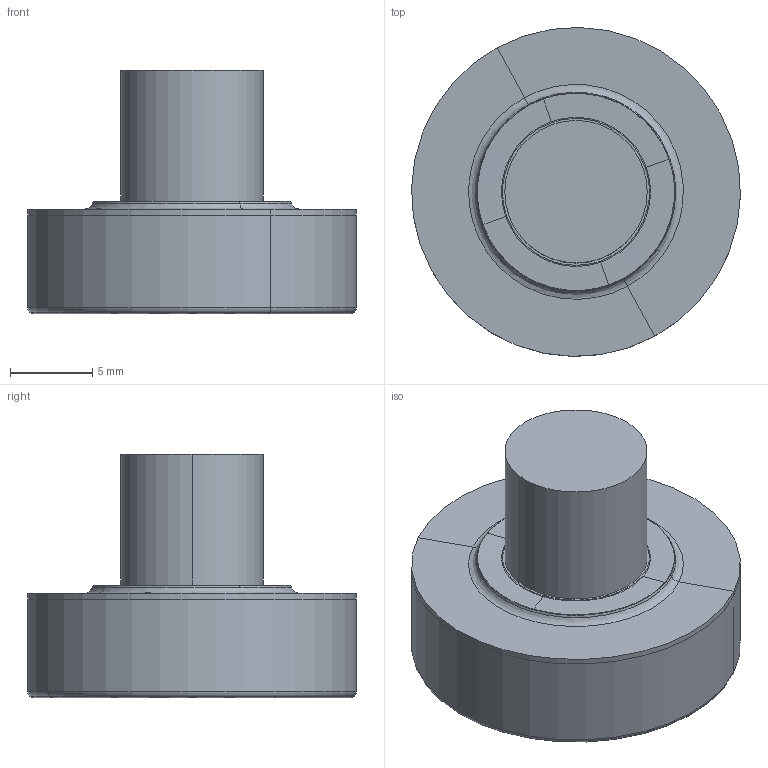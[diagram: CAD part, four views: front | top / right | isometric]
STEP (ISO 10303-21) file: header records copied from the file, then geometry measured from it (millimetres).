
FILE_DESCRIPTION(('CATIA V5 STEP','CAx-IF Rec.Pracs.--- Model Styling and Organization---1.2---2011-12-15'),'2;1');
FILE_NAME('C:\eit\appserv\eitdev\tmp\eit\transmagicconvert\216718\MM FM200-60R0.4-06T08 L.stp','2018-08-02T13:07:21+00:00',('none'),('none'),'CATIA Version 5 Release 21 SP 5 (IN-10)','CATIA V5 STEP AP214','none');
FILE_SCHEMA(('AUTOMOTIVE_DESIGN { 1 0 10303 214 1 1 1 1 }'));
Length unit declared in the file: millimetre
Products named in the file (1): MM FM200-60R0.4-06T08
Bounding box: 19.99 x 19.99 x 14.8 mm (x, y, z)
Volume: 2424.6 mm3; surface area: 2028.1 mm2
Topology: 2 solids, 2 shells, 57 faces, 155 edges, 104 vertices
Faces by surface type: revolution 30, bspline 16, cylinder 6, plane 5
Entity records: 2339 total; most frequent: CARTESIAN_POINT 1164, ORIENTED_EDGE 298, EDGE_CURVE 149, DIRECTION 111, VERTEX_POINT 97, B_SPLINE_CURVE_WITH_KNOTS 85, AXIS2_PLACEMENT_3D 61, EDGE_LOOP 60
